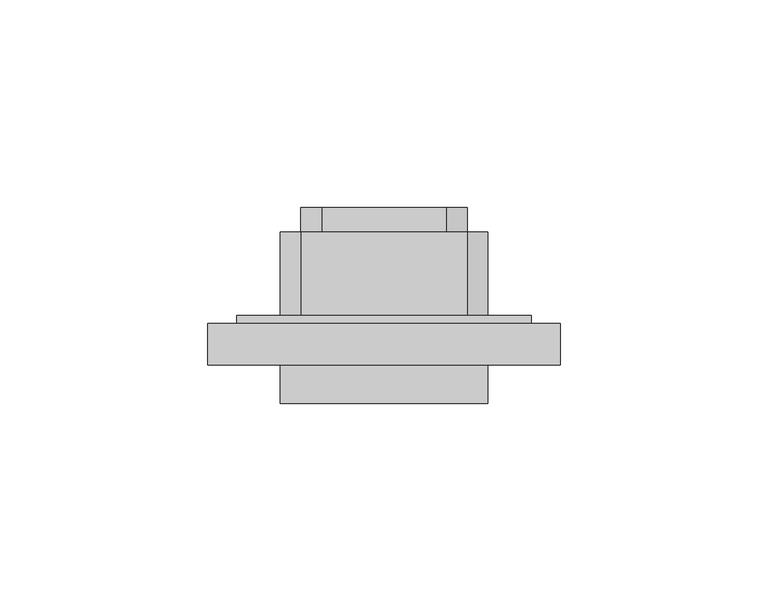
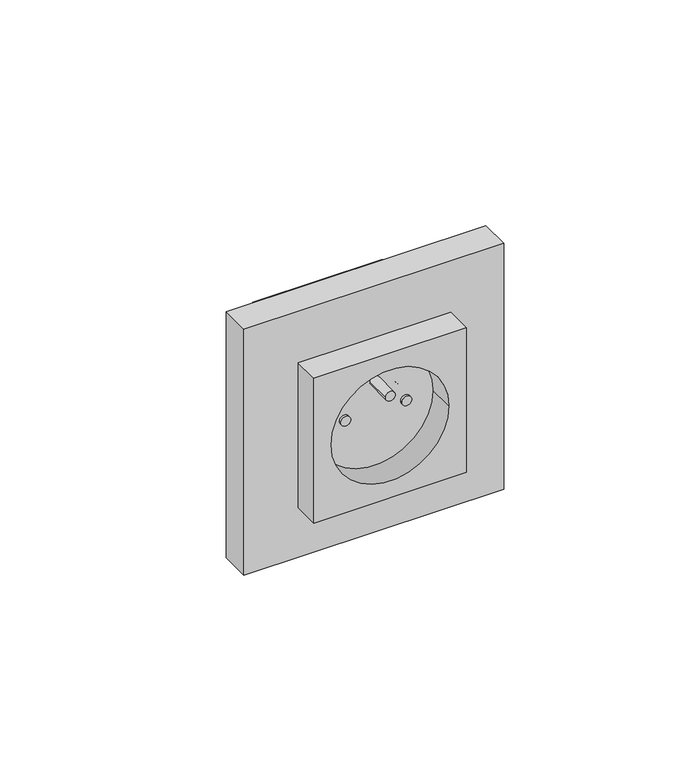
"""IFC4 building model written with IfcOpenShell, lengths in millimetres: proxy geometry, AI_Instal elec_PC 16A +T à 0,30m : PC 16A +T à 0,30m."""

from ifc_helpers import new_model, si_unit, point, frame, frame_2d, origin, origin_2d, place, context, project, spatial, polyline, circle_curve, trimmed, segment, composite_curve, outline, extrude, source, transform, mapped, element, save


def electrical_fixtures_1c8db3b3(model_context):
    return source(origin(), model_context, "Body", "SweptSolid", [
        extrude(outline(composite_curve([segment(polyline([(15.0, -20.0), (-17.0, -20.0)]), True, "CONTINUOUS"), segment(trimmed(circle_curve(frame_2d((-17.0, -15.0)), 5.0), [point((-17.0, -20.0))], [point((-22.0, -15.0))], False, "CARTESIAN"), True, "CONTINUOUS"), segment(polyline([(-22.0, -15.0), (-22.0, 15.0)]), True, "CONTINUOUS"), segment(trimmed(circle_curve(frame_2d((-17.0, 15.0)), 5.0), [point((-22.0, 15.0))], [point((-17.0, 20.0))], False, "CARTESIAN"), True, "CONTINUOUS"), segment(polyline([(-17.0, 20.0), (15.0, 20.0)]), True, "CONTINUOUS"), segment(trimmed(circle_curve(frame_2d((15.0, 15.0)), 5.0), [point((15.0, 20.0))], [point((20.0, 15.0))], False, "CARTESIAN"), True, "CONTINUOUS"), segment(polyline([(20.0, 15.0), (20.0, -15.0)]), True, "CONTINUOUS"), segment(trimmed(circle_curve(frame_2d((15.0, -15.0)), 5.0), [point((20.0, -15.0))], [point((15.0, -20.0))], False, "CARTESIAN"), True, "CONTINUOUS")], self_intersect=False)), frame((0.0, 22.0, 0.0), z_axis=(0.0, 1.0, 0.0), x_axis=(0.0, 0.0, 1.0)), (0.0, 0.0, 1.0), 6.0),
        extrude(outline(polyline([(-35.5, 0.0), (-35.5, 2.0), (35.5, 2.0), (35.5, 0.0), (-35.5, 0.0)])), frame((0.0, 0.0, -35.5), z_axis=(0.0, 0.0, 1.0), x_axis=(1.0, 0.0, 0.0)), (0.0, 0.0, 1.0), 71.0),
        extrude(outline(composite_curve([segment(polyline([(20.0, -25.0), (-20.0, -25.0)]), True, "CONTINUOUS"), segment(trimmed(circle_curve(frame_2d((-20.0, -20.0)), 5.0), [point((-20.0, -25.0))], [point((-25.0, -20.0))], False, "CARTESIAN"), True, "CONTINUOUS"), segment(polyline([(-25.0, -20.0), (-25.0, 20.0)]), True, "CONTINUOUS"), segment(trimmed(circle_curve(frame_2d((-20.0, 20.0)), 5.0), [point((-25.0, 20.0))], [point((-20.0, 25.0))], False, "CARTESIAN"), True, "CONTINUOUS"), segment(polyline([(-20.0, 25.0), (20.0, 25.0)]), True, "CONTINUOUS"), segment(trimmed(circle_curve(frame_2d((20.0, 20.0)), 5.0), [point((20.0, 25.0))], [point((25.0, 20.0))], False, "CARTESIAN"), True, "CONTINUOUS"), segment(polyline([(25.0, 20.0), (25.0, -20.0)]), True, "CONTINUOUS"), segment(trimmed(circle_curve(frame_2d((20.0, -20.0)), 5.0), [point((25.0, -20.0))], [point((20.0, -25.0))], False, "CARTESIAN"), True, "CONTINUOUS")], self_intersect=False)), frame((0.0, 2.0, 0.0), z_axis=(0.0, 1.0, 0.0), x_axis=(0.0, 0.0, 1.0)), (0.0, 0.0, 1.0), 20.0),
        extrude(outline(polyline([(-42.5, -10.0), (-42.5, 0.0), (42.5, 0.0), (42.5, -10.0), (-42.5, -10.0)])), frame((0.0, 0.0, -42.5), z_axis=(0.0, 0.0, 1.0), x_axis=(1.0, 0.0, 0.0)), (0.0, 0.0, 1.0), 85.0),
        extrude(outline(composite_curve([segment(trimmed(circle_curve(frame_2d((0.0758983, 10.1542946)), 1.6117594), [point((0.0758983, 11.766054))], [point((0.0758983, 8.5425352))], False, "CARTESIAN"), True, "CONTINUOUS"), segment(trimmed(circle_curve(frame_2d((0.0758983, 10.1542946)), 1.6117594), [point((0.0758983, 8.5425352))], [point((0.0758983, 11.766054))], False, "CARTESIAN"), True, "CONTINUOUS")], self_intersect=False)), frame((0.0, -11.2393319, 0.0), z_axis=(0.0, 1.0, 0.0), x_axis=(0.0, 0.0, 1.0)), (0.0, 0.0, 1.0), 1.2393319),
        extrude(outline(composite_curve([segment(trimmed(circle_curve(frame_2d((0.0758983, -9.8457054)), 1.6117594), [point((0.0758983, -8.233946))], [point((0.0758983, -11.4574648))], False, "CARTESIAN"), True, "CONTINUOUS"), segment(trimmed(circle_curve(frame_2d((0.0758983, -9.8457054)), 1.6117594), [point((0.0758983, -11.4574648))], [point((0.0758983, -8.233946))], False, "CARTESIAN"), True, "CONTINUOUS")], self_intersect=False)), frame((0.0, -11.2393319, 0.0), z_axis=(0.0, 1.0, 0.0), x_axis=(0.0, 0.0, 1.0)), (0.0, 0.0, 1.0), 1.2393319),
        extrude(outline(composite_curve([segment(trimmed(circle_curve(frame_2d((10.0758983, 0.1542946)), 1.6117594), [point((10.0758983, 1.766054))], [point((10.0758983, -1.4574648))], False, "CARTESIAN"), True, "CONTINUOUS"), segment(trimmed(circle_curve(frame_2d((10.0758983, 0.1542946)), 1.6117594), [point((10.0758983, -1.4574648))], [point((10.0758983, 1.766054))], False, "CARTESIAN"), True, "CONTINUOUS")], self_intersect=False)), frame((0.0, -19.2487018, 0.0), z_axis=(0.0, 1.0, 0.0), x_axis=(0.0, 0.0, 1.0)), (0.0, 0.0, 1.0), 9.2487018),
        extrude(outline(polyline([(25.0, -25.0), (-25.0, -25.0), (-25.0, 25.0), (25.0, 25.0), (25.0, -25.0)]), holes=[composite_curve([segment(trimmed(circle_curve(origin_2d(), 19.2390834), [point((0.0, 19.2390834))], [point((0.0, -19.2390834))], True, "CARTESIAN"), True, "CONTINUOUS"), segment(trimmed(circle_curve(origin_2d(), 19.2390834), [point((0.0, -19.2390834))], [point((0.0, 19.2390834))], True, "CARTESIAN"), True, "CONTINUOUS")], self_intersect=False)]), frame((0.0, -19.2487018, 0.0), z_axis=(0.0, 1.0, 0.0), x_axis=(0.0, 0.0, 1.0)), (0.0, 0.0, 1.0), 9.2487018),
        extrude(outline(composite_curve([segment(trimmed(circle_curve(origin_2d(), 10.0), [point((0.0, -10.0))], [point((0.0, 10.0))], False, "CARTESIAN"), True, "CONTINUOUS"), segment(trimmed(circle_curve(origin_2d(), 10.0), [point((0.0, 10.0))], [point((0.0, -10.0))], False, "CARTESIAN"), True, "CONTINUOUS")], self_intersect=False)), frame((0.0, -10.0, 0.0), z_axis=(0.0, 1.0, 0.0), x_axis=(0.0, 0.0, 1.0)), (0.0, 0.0, 1.0), 10.0),
    ])


if __name__ == "__main__":
    model = new_model("IFC4")
    model_context = context("Model", 3, world=origin())
    ifc_project = project(units=[si_unit("LENGTHUNIT", "METRE", prefix="MILLI")], contexts=[model_context])
    site = spatial("IfcSite", under=ifc_project)
    building = spatial("IfcBuilding", under=site)
    placement = place(None, origin())
    electrical_fixtures_shape = electrical_fixtures_1c8db3b3(model_context)
    element("IfcBuildingElementProxy", 1, Name="AI_Instal elec_PC 16A +T à 0,30m : PC 16A +T à 0,30m", ObjectType="AI_Instal elec_PC 16A +T à 0,30m : PC 16A +T à 0,30m", at=placement, inside=building, context=model_context, shape_type="MappedRepresentation", body=[
        mapped(electrical_fixtures_shape, transform((0.0, 0.0, 0.0), x_axis=(1.0, 0.0, 0.0), y_axis=(0.0, 1.0, 0.0), z_axis=(0.0, 0.0, 1.0))),
    ])
    save(model, "model.ifc")
